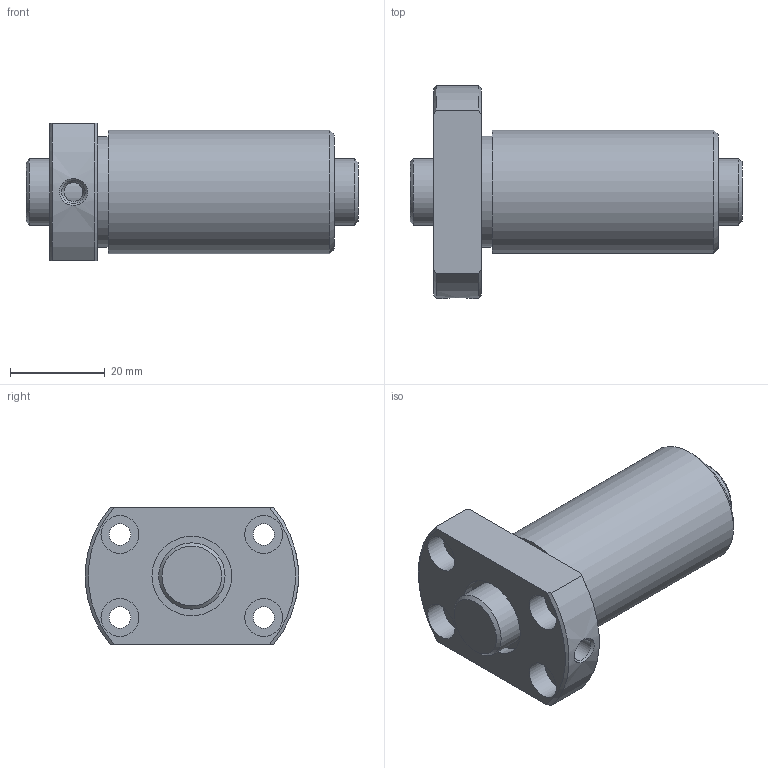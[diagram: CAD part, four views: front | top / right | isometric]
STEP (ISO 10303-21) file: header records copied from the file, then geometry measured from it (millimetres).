
FILE_DESCRIPTION(/* description */ ('STEP AP203'),/* implementation_level */ '2;1');
FILE_NAME(/* name */ 'DK1404-6RRG1+70LC0_000',/* time_stamp */ '2025-01-13T09:07:17+01:00',/* author */ ('License CC BY-ND 4.0'),/* organization */ ('CADENAS'),/* preprocessor_version */ 'ST-DEVELOPER v19.3',/* originating_system */ 'PARTsolutions',/* authorisation */ ' ');
FILE_SCHEMA (('CONFIG_CONTROL_DESIGN'));
Length unit declared in the file: millimetre
Products named in the file (3): DK1404-6RRG1+70LC0_000; DK 1404-6RR07000 Shaft; DK 1404-6RR0Nut
Assembly tree (2 placements, depth 2):
  DK1404-6RRG1+70LC0_000
    DK 1404-6RR07000 Shaft
    DK 1404-6RR0Nut
Bounding box: 70 x 44.93 x 29 mm (x, y, z)
Volume: 38049.8 mm3; surface area: 14445.4 mm2
Topology: 2 solids, 2 shells, 41 faces, 83 edges, 54 vertices
Faces by surface type: cylinder 18, plane 14, cone 9
Full cylindrical faces by diameter (mm): 4 x1, 4.5 x4, 4.917 x1, 8 x4, 14 x2, 16.8 x2, 23.4 x1, 26 x1
Entity records: 1087 total; most frequent: CARTESIAN_POINT 200, DIRECTION 180, ORIENTED_EDGE 120, AXIS2_PLACEMENT_3D 86, EDGE_LOOP 82, FACE_BOUND 82, EDGE_CURVE 60, VERTEX_POINT 52
